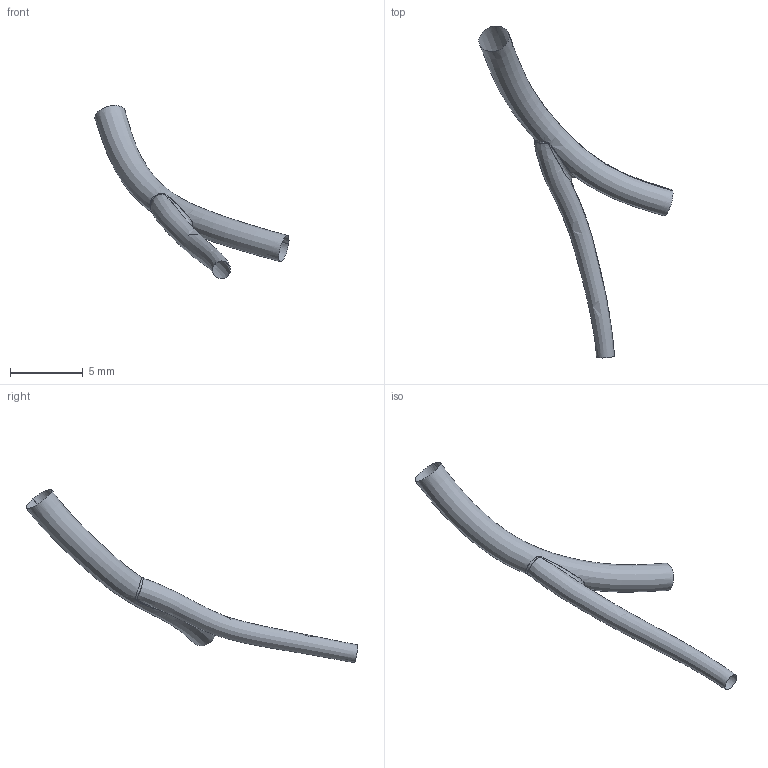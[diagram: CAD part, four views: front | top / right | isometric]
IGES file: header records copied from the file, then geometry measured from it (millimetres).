
Global section: file name: C:\Documents and Settings\Administrator\Desktop\FDA-Pig\Domestic LCA\Pig_000004\diag.ed.igs; native system: Rhinoceros ( May 19 2006 ); preprocessor: Trout Lake IGES 012 May 19 2006; date: 111205.183051; units: centimetre
Bounding box: 13.37 x 22.86 x 11.94 mm (x, y, z)
Surface area: 190 mm2 (no closed solid volume)
Topology: 0 solids, 0 shells, 3 faces, 59 edges, 56 vertices
Faces by surface type: bspline 3
